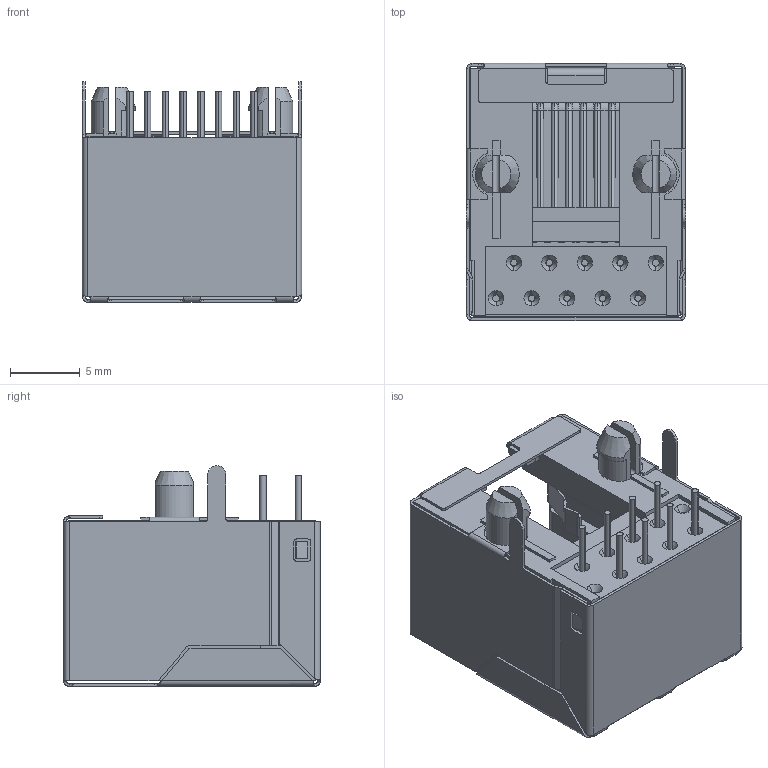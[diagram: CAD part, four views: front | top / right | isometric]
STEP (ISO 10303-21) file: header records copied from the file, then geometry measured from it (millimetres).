
FILE_DESCRIPTION((''),'2;1');
FILE_NAME('5622-1X1_ASM','2025-09-30T15:08:50',('HQW'),(''),'CREO PARAMETRIC BY PTC INC, 2024153','CREO PARAMETRIC BY PTC INC, 2024153','');
FILE_SCHEMA(('CONFIG_CONTROL_DESIGN','GEOMETRIC_VALIDATION_PROPERTIES_MIM'));
Length unit declared in the file: millimetre
Products named in the file (4): 5622-1X1-00; 5622CX; 5622-1X1-B305000; 5622-1X1_ASM
Assembly tree (3 placements, depth 2):
  5622-1X1_ASM
    5622-1X1-00
    5622CX
    5622-1X1-B305000
Bounding box: 15.7 x 18.4 x 15.8 mm (x, y, z)
Volume: 1987.8 mm3; surface area: 5930.5 mm2
Topology: 5 solids, 5 shells, 809 faces, 2075 edges, 1270 vertices
Faces by surface type: plane 470, cylinder 261, torus 32, cone 24, bspline 22
Entity records: 25762 total; most frequent: CARTESIAN_POINT 5929, ORIENTED_EDGE 4150, DIRECTION 3999, EDGE_CURVE 2075, VECTOR 1443, LINE 1443, AXIS2_PLACEMENT_3D 1278, VERTEX_POINT 1270
